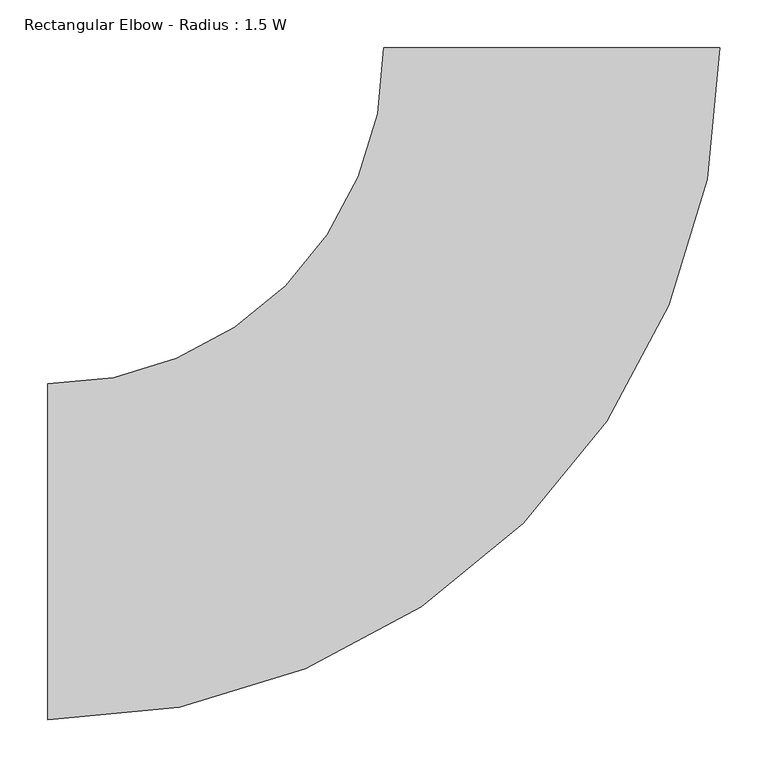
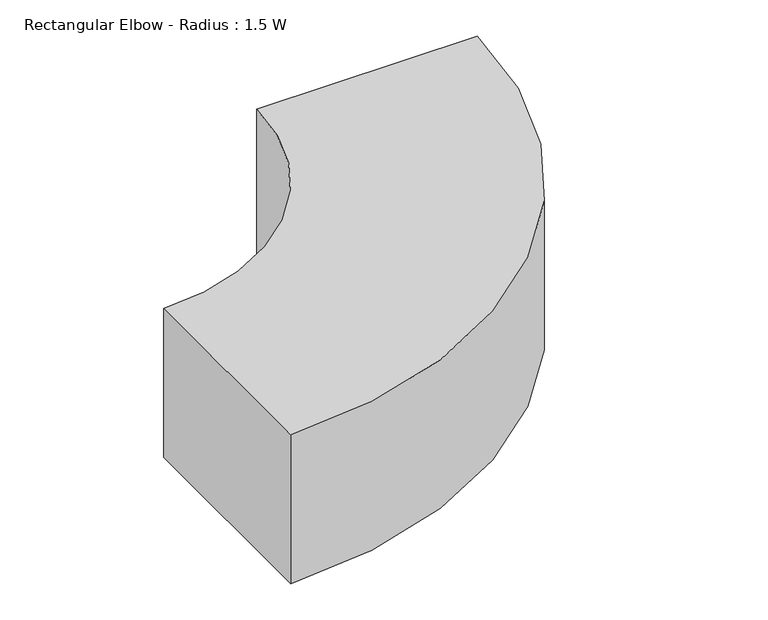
"""IFC4 building model written with IfcOpenShell, lengths in millimetres: duct fitting geometry, Rectangular Elbow - Radius : 1.5 W."""

import ifcopenshell
import ifcopenshell.guid

model = None  # the IFC model being written
_history = None  # IfcOwnerHistory: only IFC2X3 demands one
_inside = {}  # id of a spatial element -> (the spatial element, [elements in it])
_under = {}  # id of a project, library or spatial element -> (it, [spatial elements below it])
_declared = {}  # id of a project -> (the project, [libraries it declares])
_typed = {}  # id of a type object -> (the type object, [elements of that type])
_made_of = {}  # id of a material, layer set ... -> (it, [elements and type objects made of it])


def new_model(schema):
    """Start an empty IFC model of exactly this schema.

    Asked for "IFC4X3", IfcOpenShell would pick the latest addendum, in which some entities
    have other attributes; the version numbers below select the first issue.
    IFC2X3 requires an IfcOwnerHistory on every rooted entity: one is made here for all.
    """
    global model, _history
    if schema == "IFC4X3":
        model = ifcopenshell.file(schema_version=(4, 3, 0, 0))
    else:
        model = ifcopenshell.file(schema=schema)
    _inside.clear()
    _under.clear()
    _declared.clear()
    _typed.clear()
    _made_of.clear()
    _history = None
    if model.schema == "IFC2X3":
        org = make("IfcOrganization", Name="unknown")
        user = make(
            "IfcPersonAndOrganization",
            ThePerson=make("IfcPerson", FamilyName="unknown"),
            TheOrganization=org,
        )
        app = make(
            "IfcApplication",
            ApplicationDeveloper=org,
            Version="unknown",
            ApplicationFullName="unknown",
            ApplicationIdentifier="unknown",
        )
        _history = make(
            "IfcOwnerHistory",
            OwningUser=user,
            OwningApplication=app,
            ChangeAction="ADDED",
            CreationDate=0,
        )
    return model


def make(cls, **values):
    """One entity of the class cls with the attributes given. An attribute that is None is left unset."""
    return model.create_entity(
        cls, **{name: value for name, value in values.items() if value is not None}
    )


def rooted(cls, **values):
    """An entity with a GlobalId (a new one), such as an element, a storey or a relation."""
    return make(cls, GlobalId=ifcopenshell.guid.new(), OwnerHistory=_history, **values)


def si_unit(unit_type, name, prefix=None):
    """IfcSIUnit, for example si_unit("LENGTHUNIT", "METRE", prefix="MILLI")."""
    return make("IfcSIUnit", UnitType=unit_type, Prefix=prefix, Name=name)


def assignment(units):
    """IfcUnitAssignment: the units of a project."""
    return None if units is None else make("IfcUnitAssignment", Units=units)


def point(xyz):
    """IfcCartesianPoint."""
    return None if xyz is None else make("IfcCartesianPoint", Coordinates=xyz)


def direction(xyz):
    """IfcDirection."""
    return None if xyz is None else make("IfcDirection", DirectionRatios=xyz)


def frame(location, z_axis=None, x_axis=None):
    """IfcAxis2Placement3D, a coordinate frame: its origin and axes. An axis left out is left unset."""
    return make(
        "IfcAxis2Placement3D",
        Location=point(location),
        Axis=direction(z_axis),
        RefDirection=direction(x_axis),
    )


def frame_2d(location, x_axis=None):
    """IfcAxis2Placement2D, a coordinate frame in the plane: its origin and x axis."""
    return make(
        "IfcAxis2Placement2D", Location=point(location), RefDirection=direction(x_axis)
    )


def origin():
    """The frame at (0, 0, 0) with its axes left unset."""
    return frame((0.0, 0.0, 0.0))


def place(relative_to, where):
    """IfcLocalPlacement: puts the frame where relative to a parent placement (None: the world)."""
    return make(
        "IfcLocalPlacement", PlacementRelTo=relative_to, RelativePlacement=where
    )


def context(
    kind, dimensions, precision=None, world=None, true_north=None, identifier=None
):
    """IfcGeometricRepresentationContext, for example the 3D "Model" context."""
    return make(
        "IfcGeometricRepresentationContext",
        ContextIdentifier=identifier,
        ContextType=kind,
        CoordinateSpaceDimension=dimensions,
        Precision=precision,
        WorldCoordinateSystem=world,
        TrueNorth=true_north,
    )


def project(units=None, contexts=None):
    """IfcProject with its units and contexts."""
    return rooted(
        "IfcProject",
        Name="project",
        RepresentationContexts=contexts,
        UnitsInContext=assignment(units),
    )


def spatial(cls, under=None, at=None, **own):
    """A site, building, storey or space (cls), placed at a placement, below another one or the project."""
    s = rooted(cls, ObjectPlacement=at, **own)
    if under is not None:
        _under.setdefault(under.id(), (under, []))[1].append(s)
    return s


def polyline(points):
    """IfcPolyline through the points."""
    return make("IfcPolyline", Points=[point(p) for p in points])


def circle_curve(where, radius):
    """IfcCircle in the frame where."""
    return make("IfcCircle", Position=where, Radius=radius)


def trimmed(basis, trim1, trim2, sense, master):
    """IfcTrimmedCurve: the piece of a basis curve between two trims."""
    return make(
        "IfcTrimmedCurve",
        BasisCurve=basis,
        Trim1=trim1,
        Trim2=trim2,
        SenseAgreement=sense,
        MasterRepresentation=master,
    )


def segment(curve, same_sense, transition):
    """IfcCompositeCurveSegment."""
    return make(
        "IfcCompositeCurveSegment",
        Transition=transition,
        SameSense=same_sense,
        ParentCurve=curve,
    )


def composite_curve(segments, self_intersect=None):
    """IfcCompositeCurve: segments joined end to end."""
    return make("IfcCompositeCurve", Segments=segments, SelfIntersect=self_intersect)


def outline(outer, holes=None, kind="AREA"):
    """IfcArbitraryClosedProfileDef: a profile drawn as a closed curve; with holes, ...WithVoids."""
    if holes is None:
        return make("IfcArbitraryClosedProfileDef", ProfileType=kind, OuterCurve=outer)
    return make(
        "IfcArbitraryProfileDefWithVoids",
        ProfileType=kind,
        OuterCurve=outer,
        InnerCurves=holes,
    )


def extrude(swept, where, along, depth):
    """IfcExtrudedAreaSolid: the profile swept, set in the frame where, extruded along a direction by depth."""
    return make(
        "IfcExtrudedAreaSolid",
        SweptArea=swept,
        Position=where,
        ExtrudedDirection=direction(along),
        Depth=depth,
    )


def shape(context_of_items, identifier, shape_type, items):
    """IfcShapeRepresentation: the items that make up one representation, for example the "Body"."""
    return make(
        "IfcShapeRepresentation",
        ContextOfItems=context_of_items,
        RepresentationIdentifier=identifier,
        RepresentationType=shape_type,
        Items=items,
    )


def source(mapping_origin, context_of_items, identifier, shape_type, items):
    """IfcRepresentationMap: a shape defined once, which mapped items show again and again."""
    return make(
        "IfcRepresentationMap",
        MappingOrigin=mapping_origin,
        MappedRepresentation=shape(context_of_items, identifier, shape_type, items),
    )


def transform(
    local_origin,
    x_axis=None,
    y_axis=None,
    z_axis=None,
    scale=None,
    scale2=None,
    scale3=None,
    uniform=True,
):
    """IfcCartesianTransformationOperator3D, or its non-uniform kind. x_axis, y_axis, z_axis: its Axis1, 2, 3."""
    if uniform:
        return make(
            "IfcCartesianTransformationOperator3D",
            Axis1=direction(x_axis),
            Axis2=direction(y_axis),
            LocalOrigin=point(local_origin),
            Scale=scale,
            Axis3=direction(z_axis),
        )
    return make(
        "IfcCartesianTransformationOperator3DnonUniform",
        Axis1=direction(x_axis),
        Axis2=direction(y_axis),
        LocalOrigin=point(local_origin),
        Scale=scale,
        Axis3=direction(z_axis),
        Scale2=scale2,
        Scale3=scale3,
    )


def mapped(mapping_source, mapping_target):
    """IfcMappedItem: shows the shape of a source again, moved by a transform."""
    return make(
        "IfcMappedItem", MappingSource=mapping_source, MappingTarget=mapping_target
    )


def made_of(thing, what):
    """Note that an element or type object is made of a material, layer set ...; save() writes the relation."""
    if what is not None:
        _made_of.setdefault(what.id(), (what, []))[1].append(thing)
    return thing


def element(
    cls,
    number,
    at=None,
    inside=None,
    cuts=None,
    type_object=None,
    material=None,
    context=None,
    identifier="Body",
    shape_type=None,
    held_by="IfcProductDefinitionShape",
    body=None,
    shapes=None,
    **own,
):
    """One element of the class cls, such as IfcWall. Its Tag is "e" and its number.

    at: its placement. inside: the storey or other place that contains it. cuts: it is an
    opening in that element (IfcRelVoidsElement). A single representation is given by context,
    identifier, shape_type and body (its items); several are given by shapes. held_by: the class
    of the entity that holds the representations. save() writes the other relations.
    """
    e = rooted(cls, Tag="e%d" % number, ObjectPlacement=at, **own)
    if body is not None:
        shapes = [shape(context, identifier, shape_type, body)]
    if shapes is not None:
        e.Representation = make(held_by, Representations=shapes)
    if inside is not None:
        _inside.setdefault(inside.id(), (inside, []))[1].append(e)
    if cuts is not None:
        rooted(
            "IfcRelVoidsElement", RelatingBuildingElement=cuts, RelatedOpeningElement=e
        )
    if type_object is not None:
        _typed.setdefault(type_object.id(), (type_object, []))[1].append(e)
    return made_of(e, material)


def aggregate(whole, parts):
    """IfcRelAggregates: a whole, such as a stair, and the parts it consists of."""
    return rooted("IfcRelAggregates", RelatingObject=whole, RelatedObjects=parts)


def save(model, path):
    """Write the relations noted so far, then the file.

    IfcRelAggregates (storeys below a building ...), IfcRelContainedInSpatialStructure (elements
    in a storey), IfcRelDefinesByType, IfcRelAssociatesMaterial and IfcRelDeclares: one each for
    every whole, place, type object, material and project.
    """
    for whole, parts in _under.values():
        aggregate(whole, parts)
    for where, things in _inside.values():
        rooted(
            "IfcRelContainedInSpatialStructure",
            RelatedElements=things,
            RelatingStructure=where,
        )
    for kind, things in _typed.values():
        rooted("IfcRelDefinesByType", RelatedObjects=things, RelatingType=kind)
    for what, things in _made_of.values():
        rooted("IfcRelAssociatesMaterial", RelatedObjects=things, RelatingMaterial=what)
    for by, libraries in _declared.values():
        rooted("IfcRelDeclares", RelatingContext=by, RelatedDefinitions=libraries)
    model.write(path)


def rectangular_elbow_radius_1_5_w_30cb73b9(model_context):
    return source(origin(), model_context, "Body", "SweptSolid", [
        extrude(outline(composite_curve([segment(trimmed(circle_curve(frame_2d((-525.0, 525.0)), 700.0), [point((175.0, 525.0))], [point((-525.0, -175.0))], False, "CARTESIAN"), True, "CONTINUOUS"), segment(polyline([(-525.0, -175.0), (-525.0, 175.0)]), True, "CONTINUOUS"), segment(trimmed(circle_curve(frame_2d((-525.0, 525.0)), 350.0), [point((-525.0, 175.0))], [point((-175.0, 525.0))], True, "CARTESIAN"), True, "CONTINUOUS"), segment(polyline([(-175.0, 525.0), (175.0, 525.0)]), True, "CONTINUOUS")], self_intersect=False)), frame((0.0, 0.0, -125.0), z_axis=(0.0, 0.0, 1.0), x_axis=(1.0, 0.0, 0.0)), (0.0, 0.0, 1.0), 250.0),
    ])


if __name__ == "__main__":
    model = new_model("IFC4")
    model_context = context("Model", 3, world=origin())
    ifc_project = project(units=[si_unit("LENGTHUNIT", "METRE", prefix="MILLI")], contexts=[model_context])
    site = spatial("IfcSite", under=ifc_project)
    building = spatial("IfcBuilding", under=site)
    placement = place(None, origin())
    rectangular_elbow_radius_1_5_w_shape = rectangular_elbow_radius_1_5_w_30cb73b9(model_context)
    element("IfcDuctFitting", 1, ObjectType="Rectangular Elbow - Radius : 1.5 W", at=placement, inside=building, context=model_context, shape_type="MappedRepresentation", body=[
        mapped(rectangular_elbow_radius_1_5_w_shape, transform((0.0, 0.0, 0.0), x_axis=(1.0, 0.0, 0.0), y_axis=(0.0, 1.0, 0.0), z_axis=(0.0, 0.0, 1.0))),
    ])
    save(model, "model.ifc")
